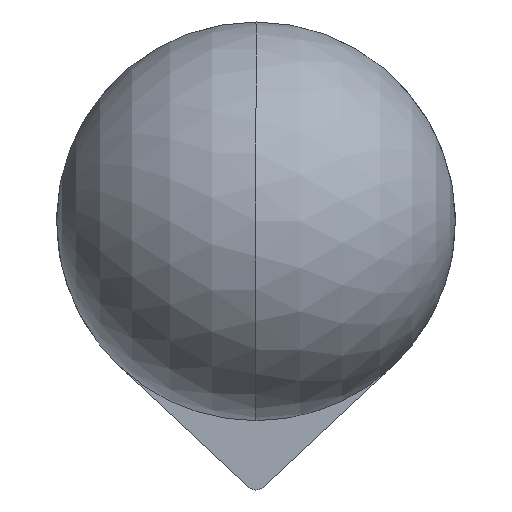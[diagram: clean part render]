
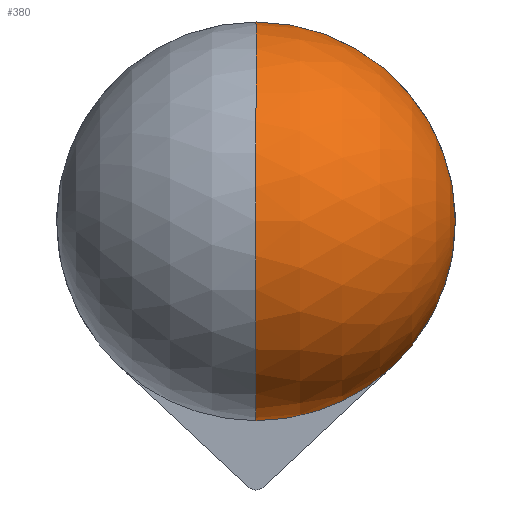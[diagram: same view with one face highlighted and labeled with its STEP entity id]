
A CAD part, front view. The second image highlights one B-rep face of the part: STEP entity #380.
In plain terms, the highlighted spherical face has radius 5.75 mm.
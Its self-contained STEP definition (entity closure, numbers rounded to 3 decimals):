
#79 = DIRECTION ( 'NONE',  ( 0., 0., 1. ) ) ;
#106 = CARTESIAN_POINT ( 'NONE',  ( -3.92, 28.25, -4.206 ) ) ;
#153 = AXIS2_PLACEMENT_3D ( 'NONE', #1053, #1153, #79 ) ;
#159 = EDGE_CURVE ( 'NONE', #505, #233, #546, .T. ) ;
#233 = VERTEX_POINT ( 'NONE', #351 ) ;
#236 = AXIS2_PLACEMENT_3D ( 'NONE', #775, #321, #489 ) ;
#254 = EDGE_CURVE ( 'NONE', #703, #806, #843, .T. ) ;
#262 = EDGE_CURVE ( 'NONE', #703, #505, #399, .T. ) ;
#321 = DIRECTION ( 'NONE',  ( 0., 1., 0. ) ) ;
#325 = ORIENTED_EDGE ( 'NONE', *, *, #254, .F. ) ;
#339 = CARTESIAN_POINT ( 'NONE',  ( 0., 28.25, 0. ) ) ;
#351 = CARTESIAN_POINT ( 'NONE',  ( 0., 28.25, 5.75 ) ) ;
#380 = ADVANCED_FACE ( 'NONE', ( #1027 ), #1134, .T. ) ;
#399 = CIRCLE ( 'NONE', #728, 5.75 ) ;
#441 = ORIENTED_EDGE ( 'NONE', *, *, #262, .T. ) ;
#489 = DIRECTION ( 'NONE',  ( 0., 0., 1. ) ) ;
#505 = VERTEX_POINT ( 'NONE', #106 ) ;
#546 = CIRCLE ( 'NONE', #236, 5.75 ) ;
#565 = CARTESIAN_POINT ( 'NONE',  ( 0., 34., 0. ) ) ;
#597 = DIRECTION ( 'NONE',  ( 1., 0., 0. ) ) ;
#605 = EDGE_LOOP ( 'NONE', ( #901, #834, #325, #441 ) ) ;
#694 = DIRECTION ( 'NONE',  ( 0., 1., 0. ) ) ;
#703 = VERTEX_POINT ( 'NONE', #1113 ) ;
#728 = AXIS2_PLACEMENT_3D ( 'NONE', #1051, #694, #954 ) ;
#775 = CARTESIAN_POINT ( 'NONE',  ( 0., 28.25, 0. ) ) ;
#782 = CARTESIAN_POINT ( 'NONE',  ( 0., 28.25, 0. ) ) ;
#792 = AXIS2_PLACEMENT_3D ( 'NONE', #782, #597, #1058 ) ;
#798 = DIRECTION ( 'NONE',  ( 0., 0., -1. ) ) ;
#806 = VERTEX_POINT ( 'NONE', #565 ) ;
#834 = ORIENTED_EDGE ( 'NONE', *, *, #1032, .T. ) ;
#843 = CIRCLE ( 'NONE', #792, 5.75 ) ;
#851 = CIRCLE ( 'NONE', #153, 5.75 ) ;
#901 = ORIENTED_EDGE ( 'NONE', *, *, #159, .T. ) ;
#954 = DIRECTION ( 'NONE',  ( 0., 0., 1. ) ) ;
#981 = DIRECTION ( 'NONE',  ( -1., 0., 0. ) ) ;
#1027 = FACE_OUTER_BOUND ( 'NONE', #605, .T. ) ;
#1032 = EDGE_CURVE ( 'NONE', #233, #806, #851, .T. ) ;
#1048 = AXIS2_PLACEMENT_3D ( 'NONE', #339, #981, #798 ) ;
#1051 = CARTESIAN_POINT ( 'NONE',  ( 0., 28.25, 0. ) ) ;
#1053 = CARTESIAN_POINT ( 'NONE',  ( 0., 28.25, 0. ) ) ;
#1058 = DIRECTION ( 'NONE',  ( 0., 0., -1. ) ) ;
#1113 = CARTESIAN_POINT ( 'NONE',  ( 0., 28.25, -5.75 ) ) ;
#1134 = SPHERICAL_SURFACE ( 'NONE', #1048, 5.75 ) ;
#1153 = DIRECTION ( 'NONE',  ( -1., 0., 0. ) ) ;
